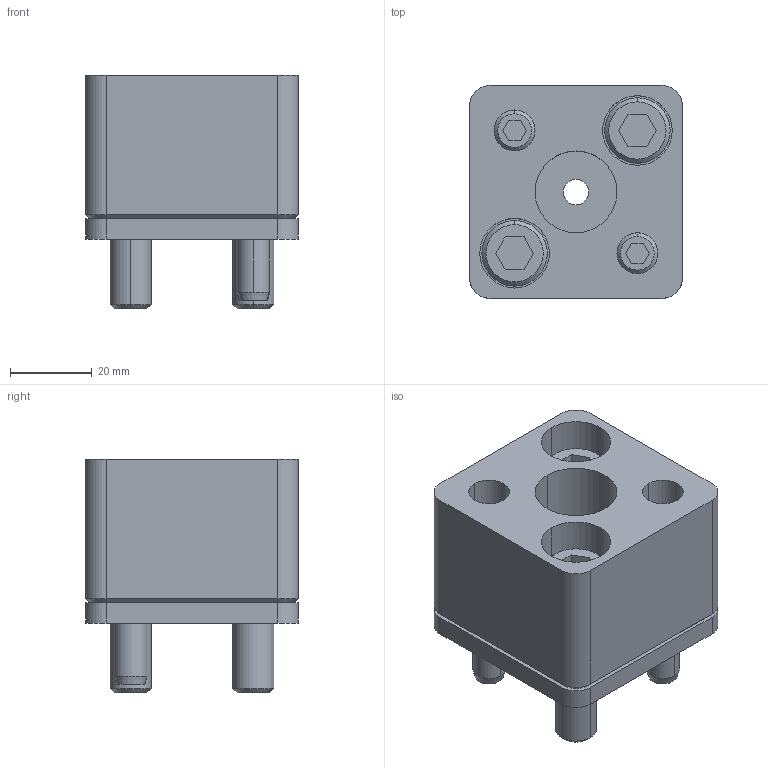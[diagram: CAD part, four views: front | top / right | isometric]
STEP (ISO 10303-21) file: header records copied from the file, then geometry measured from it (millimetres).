
FILE_DESCRIPTION(/* description */ (''),/* implementation_level */ '2;1');
FILE_NAME(/* name */ '3d_hsa-ap20_04179_r00.stp',/* time_stamp */ '2011-01-10T14:14:37+09:00',/* author */ ('MISUMI'),/* organization */ (''),/* preprocessor_version */ 'ST-DEVELOPER v11',/* originating_system */ 'UGS - NX 5.0',/* authorisation */ '');
FILE_SCHEMA (('CONFIG_CONTROL_DESIGN'));
Length unit declared in the file: millimetre
Products named in the file (1): 3d_hsa-ap20_04179_r00
Bounding box: 52 x 52 x 57 mm (x, y, z)
Volume: 90236.4 mm3; surface area: 32208.8 mm2
Topology: 8 solids, 8 shells, 163 faces, 364 edges, 232 vertices
Faces by surface type: plane 69, cylinder 64, cone 30
Entity records: 4686 total; most frequent: DIRECTION 840, CARTESIAN_POINT 814, ORIENTED_EDGE 728, EDGE_CURVE 364, AXIS2_PLACEMENT_3D 322, VERTEX_POINT 232, EDGE_LOOP 198, LINE 196
